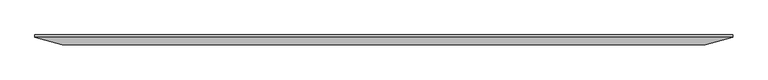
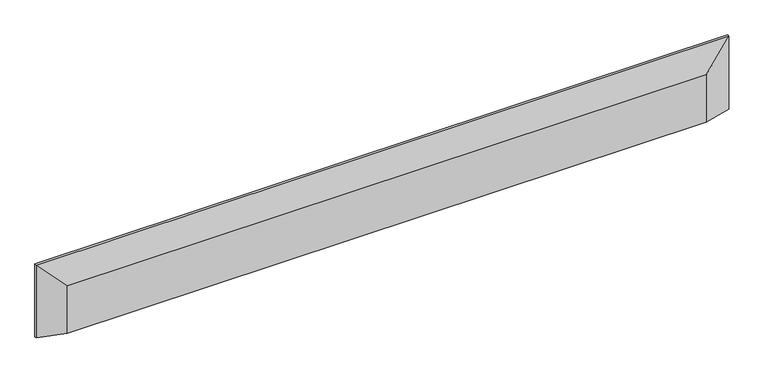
"""IFC4 building model written with IfcOpenShell, lengths in millimetres: proxy geometry, AERO^WALL HUNG_SHELF STORAGE-SHELF."""

from ifc_helpers import new_model, si_unit, origin, place, context, project, spatial, faceted_brep, source, transform, mapped, element, save


def generic_models_cb9771f0(model_context):
    return source(origin(), model_context, "Body", "Brep", [
        faceted_brep([(0.0, 38.1, -304.8), (0.0, 28.575, -304.8), (0.0, 28.575, 0.0), (0.0, 38.1, 0.0), (2743.2, 38.1, -304.8), (2743.2, 28.575, -304.8), (2636.5566482, 0.0, -304.8), (106.6433518, 0.0, -304.8), (106.6433518, 0.0, -106.6433518), (2636.5566482, 0.0, -106.6433518), (2743.2, 28.575, 0.0), (2743.2, 38.1, 0.0)], [[[0, 1, 2, 3]], [[1, 0, 4, 5, 6, 7]], [[8, 7, 6, 9]], [[10, 5, 4, 11]], [[7, 8, 2, 1]], [[10, 9, 6, 5]], [[2, 8, 9, 10]], [[0, 3, 11, 4]], [[2, 10, 11, 3]]]),
    ])


if __name__ == "__main__":
    model = new_model("IFC4")
    model_context = context("Model", 3, world=origin())
    ifc_project = project(units=[si_unit("LENGTHUNIT", "METRE", prefix="MILLI")], contexts=[model_context])
    site = spatial("IfcSite", under=ifc_project)
    building = spatial("IfcBuilding", under=site)
    placement = place(None, origin())
    generic_models_shape = generic_models_cb9771f0(model_context)
    element("IfcBuildingElementProxy", 1, Name="AERO^WALL HUNG_SHELF STORAGE-SHELF", ObjectType="AERO^WALL HUNG_SHELF STORAGE-SHELF", at=placement, inside=building, context=model_context, shape_type="MappedRepresentation", body=[
        mapped(generic_models_shape, transform((0.0, 0.0, 0.0), x_axis=(1.0, 0.0, 0.0), y_axis=(0.0, 1.0, 0.0), z_axis=(0.0, 0.0, 1.0))),
    ])
    save(model, "model.ifc")
